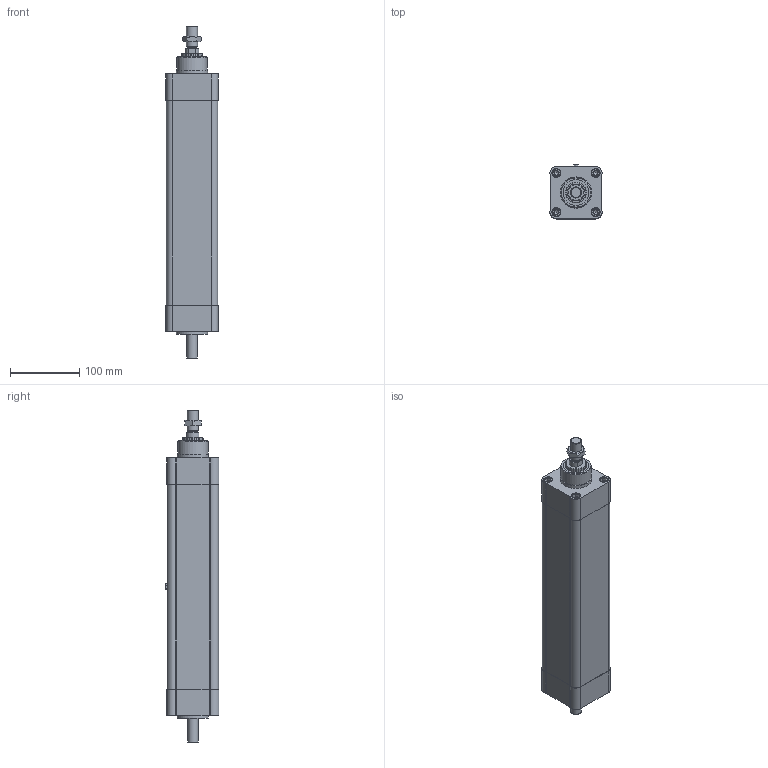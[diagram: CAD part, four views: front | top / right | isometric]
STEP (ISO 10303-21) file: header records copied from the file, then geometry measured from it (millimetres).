
FILE_DESCRIPTION(/* description */ ('STEP AP203'),/* implementation_level */ '2;1');
FILE_NAME(/* name */ 'PNCE 63 BS 2510 200 S(0)',/* time_stamp */ '2025-01-28T16:06:29+01:00',/* author */ ('License CC BY-ND 4.0'),/* organization */ ('CADENAS'),/* preprocessor_version */ 'ST-DEVELOPER v19.3',/* originating_system */ 'PARTsolutions',/* authorisation */ ' ');
FILE_SCHEMA (('CONFIG_CONTROL_DESIGN'));
Length unit declared in the file: millimetre
Products named in the file (6): PNCE 63 BS 2510 200 S(0); PNCE 63_drive cap; PNCE 63 200 S(0)_cylinder profil; PNCE 63_front cap; PNCE 63 200 S 0_piston rod; PNCE 63_nut
Assembly tree (5 placements, depth 2):
  PNCE 63 BS 2510 200 S(0)
    PNCE 63_drive cap
    PNCE 63 200 S(0)_cylinder profil
    PNCE 63_front cap
    PNCE 63 200 S 0_piston rod
    PNCE 63_nut
Bounding box: 74.97 x 77.5 x 478 mm (x, y, z)
Volume: 1627932.3 mm3; surface area: 296351.9 mm2
Topology: 5 solids, 5 shells, 256 faces, 576 edges, 380 vertices
Faces by surface type: plane 136, cylinder 90, cone 30
Full cylindrical faces by diameter (mm): 5.3 x1, 6.647 x8, 6.7 x4, 8 x8, 8.566 x1, 8.7 x4, 12 x8, 13 x8, 14.2 x1, 14.376 x1, 15 x1, 16 x1, 29.8 x1, 30 x2, 34 x1, 37 x1, 44 x1, 45 x2, 57 x2, 58 x2
Entity records: 8222 total; most frequent: DIRECTION 1168, CARTESIAN_POINT 1165, ORIENTED_EDGE 920, AXIS2_PLACEMENT_3D 462, EDGE_CURVE 460, FACE_BOUND 415, EDGE_LOOP 406, VERTEX_POINT 359
